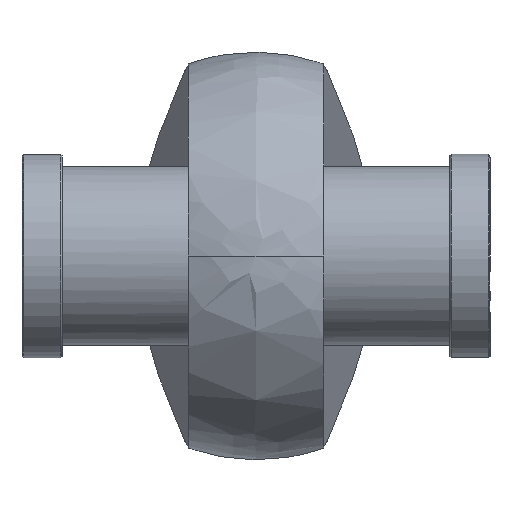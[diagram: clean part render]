
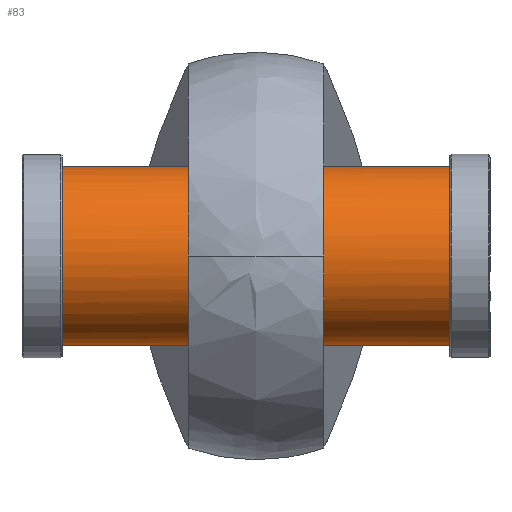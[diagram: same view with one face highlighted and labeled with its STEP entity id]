
A CAD part, left-side view. The second image highlights one B-rep face of the part: STEP entity #83.
In plain terms, the highlighted cylindrical face has radius 29 mm (diameter 58 mm), a full revolution.
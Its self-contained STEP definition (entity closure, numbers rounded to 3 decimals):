
#83=ADVANCED_FACE('',(#157),#1209,.T.);
#157=FACE_OUTER_BOUND('',#238,.T.);
#238=EDGE_LOOP('',(#506,#507,#508,#509));
#506=ORIENTED_EDGE('',*,*,#772,.T.);
#507=ORIENTED_EDGE('',*,*,#774,.T.);
#508=ORIENTED_EDGE('',*,*,#773,.T.);
#509=ORIENTED_EDGE('',*,*,#774,.F.);
#772=EDGE_CURVE('',#1124,#1124,#980,.T.);
#773=EDGE_CURVE('',#1125,#1125,#981,.T.);
#774=EDGE_CURVE('',#1124,#1125,#894,.T.);
#894=B_SPLINE_CURVE_WITH_KNOTS('',1,(#2243,#2244),.UNSPECIFIED.,.F.,.F.,
(2,2),(12.674,138.209),.UNSPECIFIED.);
#980=(
BOUNDED_CURVE()
B_SPLINE_CURVE(2,(#2225,#2226,#2227,#2228,#2229,#2230,#2231,#2232,#2233),
 .UNSPECIFIED.,.T.,.F.)
B_SPLINE_CURVE_WITH_KNOTS((3,2,2,2,3),(0.,45.553,91.106,
136.659,182.212),.UNSPECIFIED.)
CURVE()
GEOMETRIC_REPRESENTATION_ITEM()
RATIONAL_B_SPLINE_CURVE((1.,0.707,1.,0.707,1.,0.707,
1.,0.707,1.))
REPRESENTATION_ITEM('')
);
#981=(
BOUNDED_CURVE()
B_SPLINE_CURVE(2,(#2234,#2235,#2236,#2237,#2238,#2239,#2240,#2241,#2242),
 .UNSPECIFIED.,.T.,.F.)
B_SPLINE_CURVE_WITH_KNOTS((3,2,2,2,3),(0.,45.553,91.106,
136.659,182.212),.UNSPECIFIED.)
CURVE()
GEOMETRIC_REPRESENTATION_ITEM()
RATIONAL_B_SPLINE_CURVE((1.,0.707,1.,0.707,1.,0.707,
1.,0.707,1.))
REPRESENTATION_ITEM('')
);
#1124=VERTEX_POINT('',#2177);
#1125=VERTEX_POINT('',#2178);
#1209=CYLINDRICAL_SURFACE('',#1361,29.);
#1361=AXIS2_PLACEMENT_3D('',#2167,#1407,$);
#1407=DIRECTION('',(0.,-1.,0.));
#2167=CARTESIAN_POINT('',(0.,0.,0.));
#2177=CARTESIAN_POINT('',(29.,62.768,0.));
#2178=CARTESIAN_POINT('',(29.,-62.768,0.));
#2225=CARTESIAN_POINT('',(29.,62.768,0.));
#2226=CARTESIAN_POINT('',(29.,62.768,29.));
#2227=CARTESIAN_POINT('',(0.,62.768,29.));
#2228=CARTESIAN_POINT('',(-29.,62.768,29.));
#2229=CARTESIAN_POINT('',(-29.,62.768,0.));
#2230=CARTESIAN_POINT('',(-29.,62.768,-29.));
#2231=CARTESIAN_POINT('',(0.,62.768,-29.));
#2232=CARTESIAN_POINT('',(29.,62.768,-29.));
#2233=CARTESIAN_POINT('',(29.,62.768,0.));
#2234=CARTESIAN_POINT('',(29.,-62.768,0.));
#2235=CARTESIAN_POINT('',(29.,-62.768,-29.));
#2236=CARTESIAN_POINT('',(0.,-62.768,-29.));
#2237=CARTESIAN_POINT('',(-29.,-62.768,-29.));
#2238=CARTESIAN_POINT('',(-29.,-62.768,0.));
#2239=CARTESIAN_POINT('',(-29.,-62.768,29.));
#2240=CARTESIAN_POINT('',(0.,-62.768,29.));
#2241=CARTESIAN_POINT('',(29.,-62.768,29.));
#2242=CARTESIAN_POINT('',(29.,-62.768,0.));
#2243=CARTESIAN_POINT('',(29.,62.768,0.));
#2244=CARTESIAN_POINT('',(29.,-62.768,0.));
